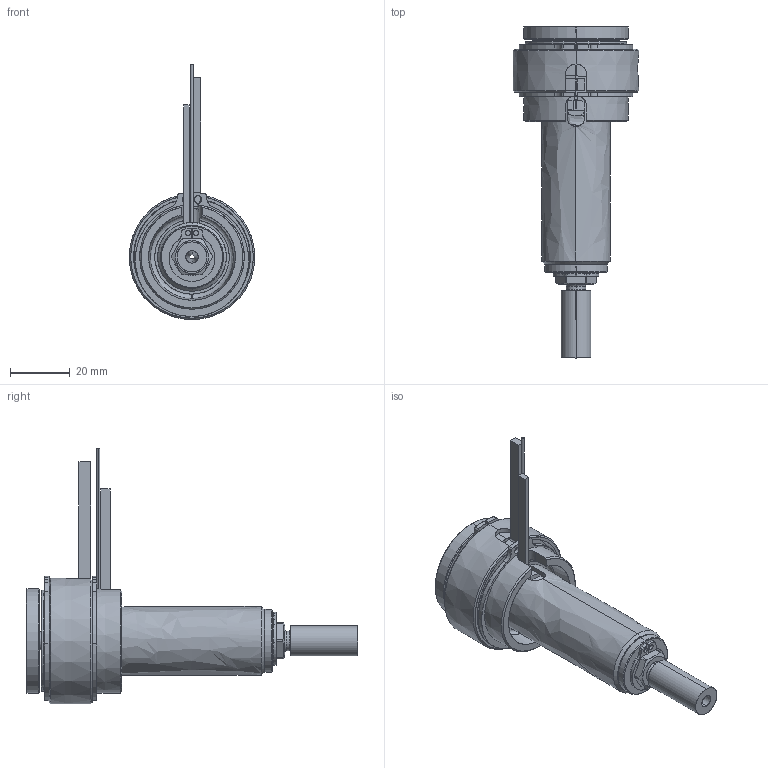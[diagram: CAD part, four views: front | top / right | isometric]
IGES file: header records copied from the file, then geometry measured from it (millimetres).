
Start section: SolidWorks IGES file using analytic representation for surfaces
Global section: file name: C:\Users\luca.EMPAD\Desktop\TEM\UGBE3501-S-A-P-3 [Ød-1.5 P-20 ØC-6.0].IGS; native system: SolidWorks 2012; preprocessor: SolidWorks 2012; author: luca; date: 120330.135616; units: millimetre
Bounding box: 42 x 111 x 85.4 mm (x, y, z)
Surface area: 28374.2 mm2 (no closed solid volume)
Topology: 0 solids, 0 shells, 192 faces, 3598 edges, 3598 vertices
Faces by surface type: revolution 122, bspline 70
